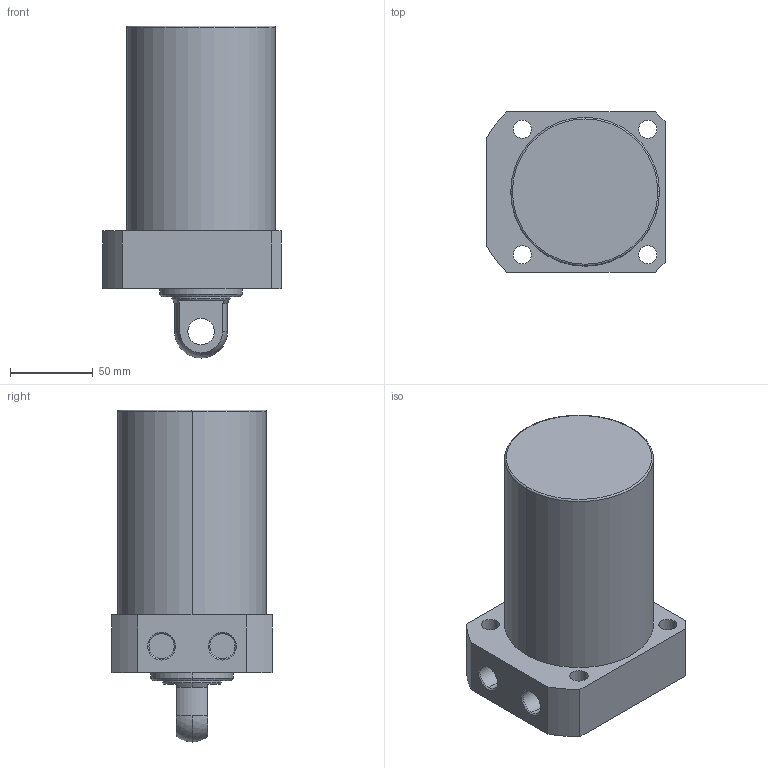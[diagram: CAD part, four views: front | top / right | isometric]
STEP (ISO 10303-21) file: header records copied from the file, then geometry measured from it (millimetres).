
FILE_DESCRIPTION (( 'STEP AP203' ), '1' );
FILE_NAME ('CLLR-090CP-080.STEP', '2019-12-18T06:51:12', ( '' ), ( '' ), 'SwSTEP 2.0', 'SolidWorks 2015', '' );
FILE_SCHEMA (( 'CONFIG_CONTROL_DESIGN' ));
Length unit declared in the file: millimetre
Products named in the file (1): CLLR-090CP-080
Bounding box: 108 x 97 x 201 mm (x, y, z)
Volume: 1153024.3 mm3; surface area: 79125.9 mm2
Topology: 1 solids, 1 shells, 59 faces, 139 edges, 89 vertices
Faces by surface type: cylinder 29, plane 18, cone 8, sphere 2, torus 2
Entity records: 1822 total; most frequent: DIRECTION 331, CARTESIAN_POINT 300, ORIENTED_EDGE 278, EDGE_CURVE 139, AXIS2_PLACEMENT_3D 136, VERTEX_POINT 89, CIRCLE 76, EDGE_LOOP 76
